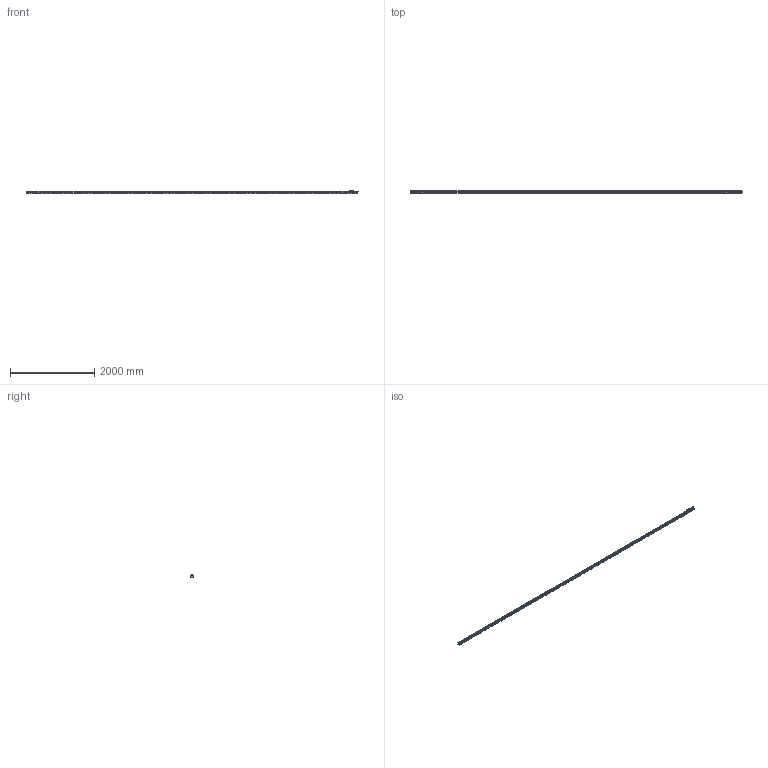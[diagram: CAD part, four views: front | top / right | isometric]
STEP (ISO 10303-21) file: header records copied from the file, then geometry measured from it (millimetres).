
FILE_DESCRIPTION(('Creo Elements/Direct Modeling STEP Export'),'2;1');
FILE_NAME('REGLA_L3_7640_M.stp','2021-02-04T10:07:05',(''),(''),'Creo Elements/Direct Modeling STEP processor for AP214 (Solid Model)','Creo Elements/Direct Modeling 19.0G 27-Nov-2017 (C) Parametric Technology GmbH','');
FILE_SCHEMA(('AUTOMOTIVE_DESIGN { 1 0 10303 214 1 1 1 1 }'));
Products named in the file (3): PERFIL_L3_7640; CABEZA_L3_M8; MOD_L3_7640_M
Assembly tree (2 placements, depth 2):
  MOD_L3_7640_M
    CABEZA_L3_M8
    PERFIL_L3_7640
Bounding box: 7890 x 50 x 85 mm (x, y, z)
Volume: 20446597.2 mm3; surface area: 2289716.3 mm2
Topology: 2 solids, 2 shells, 2444 faces, 7023 edges, 4680 vertices
Faces by surface type: plane 1234, cylinder 852, cone 243, bspline 59, torus 50, extrusion 6
Entity records: 96092 total; most frequent: CARTESIAN_POINT 26742, ORIENTED_EDGE 14030, DIRECTION 12500, EDGE_CURVE 7015, VERTEX_POINT 4680, VECTOR 4436, LINE 4430, AXIS2_PLACEMENT_3D 4032
